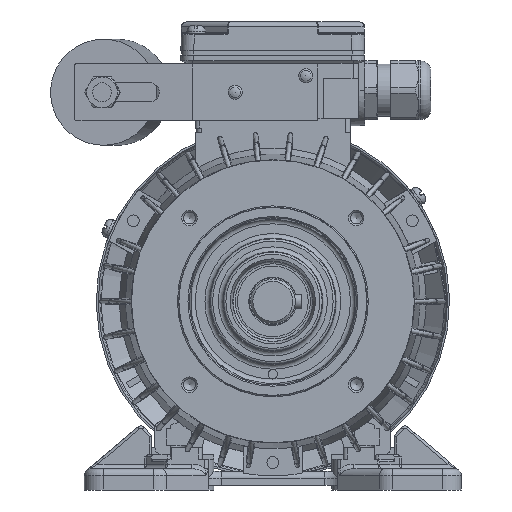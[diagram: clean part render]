
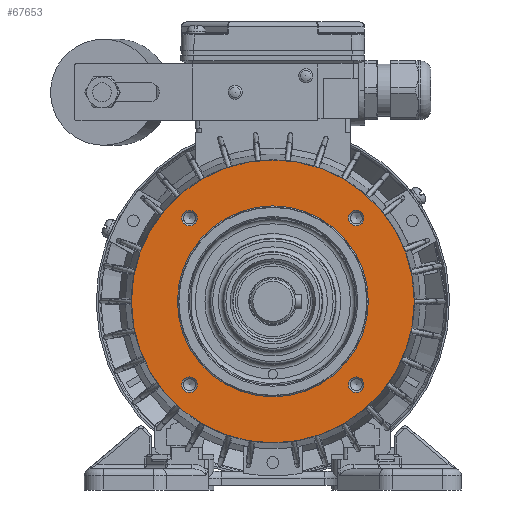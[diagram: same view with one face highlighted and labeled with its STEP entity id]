
A CAD part, left-side view. The second image highlights one B-rep face of the part: STEP entity #67653.
In plain terms, the highlighted planar face has unit normal (-1, 0, 0).
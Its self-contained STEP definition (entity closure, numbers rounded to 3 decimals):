
#17026=ORIENTED_EDGE('',*,*,#28955,.T.);
#17027=ORIENTED_EDGE('',*,*,#28954,.T.);
#17028=ORIENTED_EDGE('',*,*,#28953,.T.);
#17029=ORIENTED_EDGE('',*,*,#28952,.T.);
#17030=ORIENTED_EDGE('',*,*,#28951,.T.);
#17031=ORIENTED_EDGE('',*,*,#28972,.T.);
#28951=EDGE_CURVE('',#35462,#35462,#39274,.F.);
#28952=EDGE_CURVE('',#35463,#35463,#39275,.F.);
#28953=EDGE_CURVE('',#35464,#35464,#39276,.F.);
#28954=EDGE_CURVE('',#35465,#35465,#39277,.F.);
#28955=EDGE_CURVE('',#35466,#35466,#39278,.F.);
#28972=EDGE_CURVE('',#35483,#35483,#39283,.T.);
#35462=VERTEX_POINT('',#95311);
#35463=VERTEX_POINT('',#95314);
#35464=VERTEX_POINT('',#95317);
#35465=VERTEX_POINT('',#95320);
#35466=VERTEX_POINT('',#95323);
#35483=VERTEX_POINT('',#95446);
#39274=CIRCLE('',#71498,40.5);
#39275=CIRCLE('',#71500,3.3);
#39276=CIRCLE('',#71502,3.3);
#39277=CIRCLE('',#71504,3.3);
#39278=CIRCLE('',#71506,3.3);
#39283=CIRCLE('',#71512,60.);
#41833=EDGE_LOOP('',(#17026));
#41834=EDGE_LOOP('',(#17027));
#41835=EDGE_LOOP('',(#17028));
#41836=EDGE_LOOP('',(#17029));
#41837=EDGE_LOOP('',(#17030));
#41838=EDGE_LOOP('',(#17031));
#45172=FACE_BOUND('',#41833,.T.);
#45173=FACE_BOUND('',#41834,.T.);
#45174=FACE_BOUND('',#41835,.T.);
#45175=FACE_BOUND('',#41836,.T.);
#45176=FACE_BOUND('',#41837,.T.);
#45177=FACE_BOUND('',#41838,.T.);
#47697=PLANE('',#71511);
#67653=ADVANCED_FACE('',(#45172,#45173,#45174,#45175,#45176,#45177),#47697,
 .T.);
#71498=AXIS2_PLACEMENT_3D('',#95310,#80655,#80656);
#71500=AXIS2_PLACEMENT_3D('',#95313,#80659,#80660);
#71502=AXIS2_PLACEMENT_3D('',#95316,#80663,#80664);
#71504=AXIS2_PLACEMENT_3D('',#95319,#80667,#80668);
#71506=AXIS2_PLACEMENT_3D('',#95322,#80671,#80672);
#71511=AXIS2_PLACEMENT_3D('',#95444,#80689,#80690);
#71512=AXIS2_PLACEMENT_3D('',#95445,#80691,#80692);
#80655=DIRECTION('',(-1.,0.,0.));
#80656=DIRECTION('',(0.,0.,-1.));
#80659=DIRECTION('',(-1.,0.,0.));
#80660=DIRECTION('',(0.,0.,-1.));
#80663=DIRECTION('',(-1.,0.,0.));
#80664=DIRECTION('',(0.,0.,-1.));
#80667=DIRECTION('',(-1.,0.,0.));
#80668=DIRECTION('',(0.,0.,-1.));
#80671=DIRECTION('',(-1.,0.,0.));
#80672=DIRECTION('',(0.,0.,-1.));
#80689=DIRECTION('',(-1.,0.,0.));
#80690=DIRECTION('',(0.,0.,-1.));
#80691=DIRECTION('',(-1.,0.,0.));
#80692=DIRECTION('',(0.,0.,-1.));
#95310=CARTESIAN_POINT('',(-44.3,0.,0.));
#95311=CARTESIAN_POINT('',(-44.3,0.,-40.5));
#95313=CARTESIAN_POINT('',(-44.3,35.355,35.355));
#95314=CARTESIAN_POINT('',(-44.3,35.355,32.055));
#95316=CARTESIAN_POINT('',(-44.3,-35.355,35.355));
#95317=CARTESIAN_POINT('',(-44.3,-35.355,32.055));
#95319=CARTESIAN_POINT('',(-44.3,-35.355,-35.355));
#95320=CARTESIAN_POINT('',(-44.3,-35.355,-38.655));
#95322=CARTESIAN_POINT('',(-44.3,35.355,-35.355));
#95323=CARTESIAN_POINT('',(-44.3,35.355,-38.655));
#95444=CARTESIAN_POINT('',(-44.3,0.,40.));
#95445=CARTESIAN_POINT('',(-44.3,0.,0.));
#95446=CARTESIAN_POINT('',(-44.3,0.,-60.));
